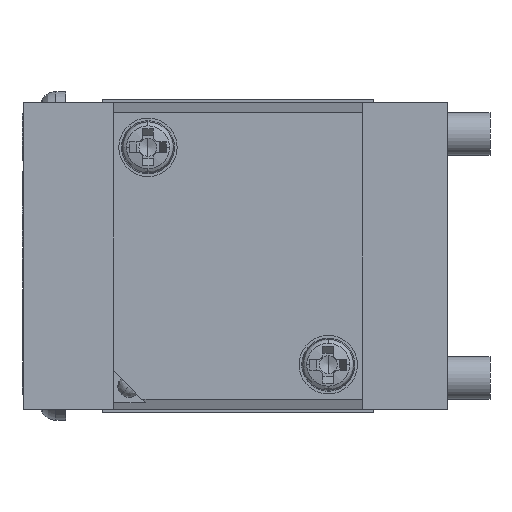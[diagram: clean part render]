
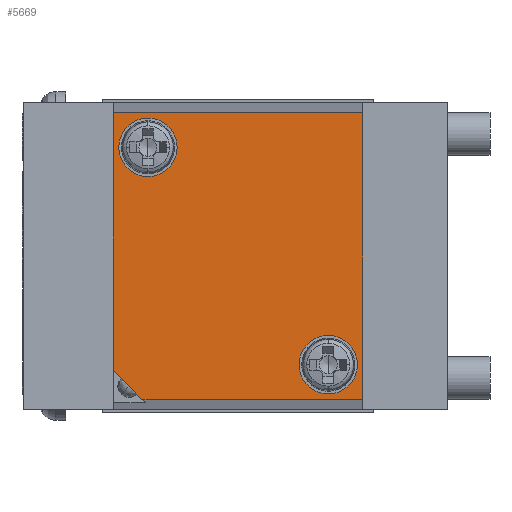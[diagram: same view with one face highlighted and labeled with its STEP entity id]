
A CAD part, left-side view. The second image highlights one B-rep face of the part: STEP entity #5669.
In plain terms, the highlighted planar face has unit normal (-1, 0, 0).
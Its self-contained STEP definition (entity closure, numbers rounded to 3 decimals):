
#9 = CARTESIAN_POINT ( 'NONE',  ( -7.5, -8.5, -7.5 ) ) ;
#159 = CARTESIAN_POINT ( 'NONE',  ( -7.5, -11.75, 13.5 ) ) ;
#337 = LINE ( 'NONE', #7110, #3593 ) ;
#371 = CARTESIAN_POINT ( 'NONE',  ( -7.5, -11.75, -13.5 ) ) ;
#376 = EDGE_LOOP ( 'NONE', ( #2327, #3621 ) ) ;
#591 = CARTESIAN_POINT ( 'NONE',  ( -7.5, -8.5, -10.25 ) ) ;
#625 = CIRCLE ( 'NONE', #2814, 2.75 ) ;
#793 = DIRECTION ( 'NONE',  ( 1., 0., 0. ) ) ;
#894 = EDGE_CURVE ( 'NONE', #7913, #7720, #8786, .T. ) ;
#1073 = LINE ( 'NONE', #1181, #3879 ) ;
#1181 = CARTESIAN_POINT ( 'NONE',  ( -7.5, 8.716, -13.852 ) ) ;
#1231 = ORIENTED_EDGE ( 'NONE', *, *, #894, .F. ) ;
#1737 = VERTEX_POINT ( 'NONE', #5661 ) ;
#1800 = LINE ( 'NONE', #4992, #9513 ) ;
#1887 = DIRECTION ( 'NONE',  ( 0., -1., 0. ) ) ;
#1895 = DIRECTION ( 'NONE',  ( 0., 0.701, 0.713 ) ) ;
#1904 = EDGE_CURVE ( 'NONE', #3595, #7132, #7406, .T. ) ;
#1970 = EDGE_CURVE ( 'NONE', #7132, #3595, #7640, .T. ) ;
#2081 = AXIS2_PLACEMENT_3D ( 'NONE', #159, #793, #3796 ) ;
#2327 = ORIENTED_EDGE ( 'NONE', *, *, #1970, .F. ) ;
#2536 = EDGE_CURVE ( 'NONE', #3196, #6356, #7280, .T. ) ;
#2642 = VERTEX_POINT ( 'NONE', #3717 ) ;
#2814 = AXIS2_PLACEMENT_3D ( 'NONE', #8390, #6113, #6021 ) ;
#2870 = ORIENTED_EDGE ( 'NONE', *, *, #4335, .F. ) ;
#2970 = VERTEX_POINT ( 'NONE', #371 ) ;
#3010 = PLANE ( 'NONE',  #2081 ) ;
#3196 = VERTEX_POINT ( 'NONE', #9 ) ;
#3223 = CARTESIAN_POINT ( 'NONE',  ( -7.5, 8.5, 13. ) ) ;
#3528 = DIRECTION ( 'NONE',  ( -1., 0., 0. ) ) ;
#3560 = CARTESIAN_POINT ( 'NONE',  ( -7.5, 8.5, 10.25 ) ) ;
#3593 = VECTOR ( 'NONE', #1887, 1000. ) ;
#3595 = VERTEX_POINT ( 'NONE', #9657 ) ;
#3621 = ORIENTED_EDGE ( 'NONE', *, *, #1904, .F. ) ;
#3647 = DIRECTION ( 'NONE',  ( 0., 0., 1. ) ) ;
#3658 = DIRECTION ( 'NONE',  ( 0., 0., 1. ) ) ;
#3681 = DIRECTION ( 'NONE',  ( -1., 0., 0. ) ) ;
#3717 = CARTESIAN_POINT ( 'NONE',  ( -7.5, 9.062, -13.5 ) ) ;
#3796 = DIRECTION ( 'NONE',  ( 0., 0., -1. ) ) ;
#3813 = DIRECTION ( 'NONE',  ( 0., 0., 1. ) ) ;
#3879 = VECTOR ( 'NONE', #1895, 1000. ) ;
#4322 = CARTESIAN_POINT ( 'NONE',  ( -7.5, 8.5, 10.25 ) ) ;
#4335 = EDGE_CURVE ( 'NONE', #6356, #3196, #625, .T. ) ;
#4443 = ORIENTED_EDGE ( 'NONE', *, *, #9091, .F. ) ;
#4637 = EDGE_CURVE ( 'NONE', #2642, #7913, #1073, .T. ) ;
#4992 = CARTESIAN_POINT ( 'NONE',  ( -7.5, 0., -13.5 ) ) ;
#5000 = DIRECTION ( 'NONE',  ( 0., 0., 1. ) ) ;
#5031 = FACE_OUTER_BOUND ( 'NONE', #5285, .T. ) ;
#5217 = ORIENTED_EDGE ( 'NONE', *, *, #8323, .F. ) ;
#5285 = EDGE_LOOP ( 'NONE', ( #5217, #7343, #1231, #9063, #4443 ) ) ;
#5661 = CARTESIAN_POINT ( 'NONE',  ( -7.5, -11.75, 13.5 ) ) ;
#5669 = ADVANCED_FACE ( 'NONE', ( #6408, #8172, #5031 ), #3010, .F. ) ;
#5751 = DIRECTION ( 'NONE',  ( 0., 1., 0. ) ) ;
#5795 = AXIS2_PLACEMENT_3D ( 'NONE', #4322, #5822, #5000 ) ;
#5822 = DIRECTION ( 'NONE',  ( -1., 0., 0. ) ) ;
#6021 = DIRECTION ( 'NONE',  ( 0., 0., 1. ) ) ;
#6113 = DIRECTION ( 'NONE',  ( -1., 0., 0. ) ) ;
#6219 = AXIS2_PLACEMENT_3D ( 'NONE', #591, #3681, #3647 ) ;
#6356 = VERTEX_POINT ( 'NONE', #6430 ) ;
#6408 = FACE_BOUND ( 'NONE', #9431, .T. ) ;
#6430 = CARTESIAN_POINT ( 'NONE',  ( -7.5, -8.5, -13. ) ) ;
#6805 = DIRECTION ( 'NONE',  ( 0., 0., -1. ) ) ;
#7110 = CARTESIAN_POINT ( 'NONE',  ( -7.5, 0., 13.5 ) ) ;
#7132 = VERTEX_POINT ( 'NONE', #3223 ) ;
#7265 = ORIENTED_EDGE ( 'NONE', *, *, #2536, .F. ) ;
#7280 = CIRCLE ( 'NONE', #6219, 2.75 ) ;
#7343 = ORIENTED_EDGE ( 'NONE', *, *, #8440, .F. ) ;
#7406 = CIRCLE ( 'NONE', #5795, 2.75 ) ;
#7637 = CARTESIAN_POINT ( 'NONE',  ( -7.5, -11.75, 0. ) ) ;
#7640 = CIRCLE ( 'NONE', #9108, 2.75 ) ;
#7662 = VECTOR ( 'NONE', #6805, 1000. ) ;
#7720 = VERTEX_POINT ( 'NONE', #7760 ) ;
#7760 = CARTESIAN_POINT ( 'NONE',  ( -7.5, 11.75, 13.5 ) ) ;
#7913 = VERTEX_POINT ( 'NONE', #9619 ) ;
#8172 = FACE_BOUND ( 'NONE', #376, .T. ) ;
#8265 = LINE ( 'NONE', #7637, #7662 ) ;
#8279 = CARTESIAN_POINT ( 'NONE',  ( -7.5, 11.75, 0. ) ) ;
#8323 = EDGE_CURVE ( 'NONE', #1737, #2970, #8265, .T. ) ;
#8390 = CARTESIAN_POINT ( 'NONE',  ( -7.5, -8.5, -10.25 ) ) ;
#8440 = EDGE_CURVE ( 'NONE', #7720, #1737, #337, .T. ) ;
#8786 = LINE ( 'NONE', #8279, #9494 ) ;
#9063 = ORIENTED_EDGE ( 'NONE', *, *, #4637, .F. ) ;
#9091 = EDGE_CURVE ( 'NONE', #2970, #2642, #1800, .T. ) ;
#9108 = AXIS2_PLACEMENT_3D ( 'NONE', #3560, #3528, #3658 ) ;
#9431 = EDGE_LOOP ( 'NONE', ( #7265, #2870 ) ) ;
#9494 = VECTOR ( 'NONE', #3813, 1000. ) ;
#9513 = VECTOR ( 'NONE', #5751, 1000. ) ;
#9619 = CARTESIAN_POINT ( 'NONE',  ( -7.5, 11.75, -10.767 ) ) ;
#9657 = CARTESIAN_POINT ( 'NONE',  ( -7.5, 8.5, 7.5 ) ) ;
